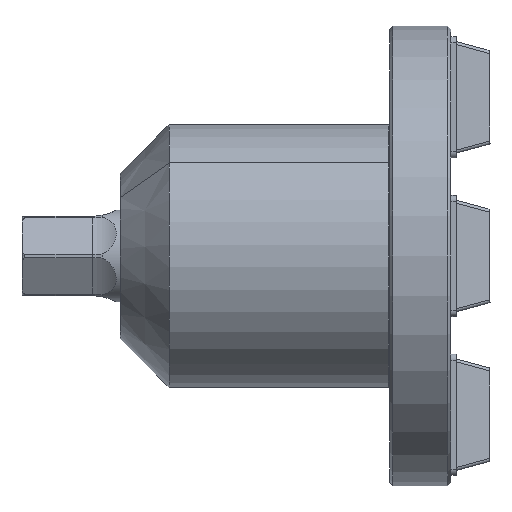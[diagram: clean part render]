
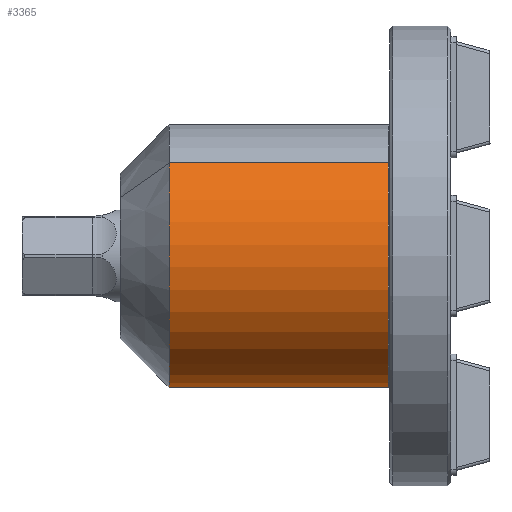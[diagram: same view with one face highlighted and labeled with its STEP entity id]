
A CAD part, front view. The second image highlights one B-rep face of the part: STEP entity #3365.
In plain terms, the highlighted cylindrical face has radius 21.5 mm (diameter 43 mm), a partial arc.
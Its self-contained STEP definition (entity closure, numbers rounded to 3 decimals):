
#511 = CARTESIAN_POINT ( 'NONE',  ( -169.179, -15.203, 15.203 ) ) ;
#569 = CARTESIAN_POINT ( 'NONE',  ( -229.793, 15.203, -15.203 ) ) ;
#1201 = DIRECTION ( 'NONE',  ( 0., 0.707, -0.707 ) ) ;
#1356 = AXIS2_PLACEMENT_3D ( 'NONE', #8721, #9966, #1201 ) ;
#1649 = VERTEX_POINT ( 'NONE', #13469 ) ;
#2688 = CYLINDRICAL_SURFACE ( 'NONE', #5095, 21.5 ) ;
#3365 = ADVANCED_FACE ( 'NONE', ( #15375 ), #2688, .T. ) ;
#3849 = CARTESIAN_POINT ( 'NONE',  ( -193.993, 0., 0. ) ) ;
#4505 = DIRECTION ( 'NONE',  ( 1., 0., 0. ) ) ;
#5095 = AXIS2_PLACEMENT_3D ( 'NONE', #5463, #8234, #18747 ) ;
#5344 = AXIS2_PLACEMENT_3D ( 'NONE', #3849, #5667, #11104 ) ;
#5393 = EDGE_LOOP ( 'NONE', ( #7385, #14378, #13511, #12110 ) ) ;
#5463 = CARTESIAN_POINT ( 'NONE',  ( -169.179, 0., 0. ) ) ;
#5667 = DIRECTION ( 'NONE',  ( -1., 0., 0. ) ) ;
#5947 = LINE ( 'NONE', #8720, #10953 ) ;
#6356 = VERTEX_POINT ( 'NONE', #12198 ) ;
#6580 = CIRCLE ( 'NONE', #5344, 21.5 ) ;
#7385 = ORIENTED_EDGE ( 'NONE', *, *, #18431, .T. ) ;
#8234 = DIRECTION ( 'NONE',  ( 1., 0., 0. ) ) ;
#8720 = CARTESIAN_POINT ( 'NONE',  ( -169.179, 15.203, -15.203 ) ) ;
#8721 = CARTESIAN_POINT ( 'NONE',  ( -229.793, 0., 0. ) ) ;
#9317 = EDGE_CURVE ( 'NONE', #15796, #6356, #16419, .T. ) ;
#9569 = CIRCLE ( 'NONE', #1356, 21.5 ) ;
#9966 = DIRECTION ( 'NONE',  ( 1., 0., 0. ) ) ;
#10953 = VECTOR ( 'NONE', #4505, 1000. ) ;
#11104 = DIRECTION ( 'NONE',  ( 0., -0.707, 0.707 ) ) ;
#12110 = ORIENTED_EDGE ( 'NONE', *, *, #9317, .F. ) ;
#12198 = CARTESIAN_POINT ( 'NONE',  ( -193.993, -15.203, 15.203 ) ) ;
#12267 = CARTESIAN_POINT ( 'NONE',  ( -229.793, -15.203, 15.203 ) ) ;
#13469 = CARTESIAN_POINT ( 'NONE',  ( -193.993, 15.203, -15.203 ) ) ;
#13511 = ORIENTED_EDGE ( 'NONE', *, *, #15040, .T. ) ;
#14378 = ORIENTED_EDGE ( 'NONE', *, *, #17092, .T. ) ;
#15040 = EDGE_CURVE ( 'NONE', #1649, #6356, #6580, .T. ) ;
#15375 = FACE_OUTER_BOUND ( 'NONE', #5393, .T. ) ;
#15590 = VECTOR ( 'NONE', #18264, 1000. ) ;
#15767 = VERTEX_POINT ( 'NONE', #569 ) ;
#15796 = VERTEX_POINT ( 'NONE', #12267 ) ;
#16419 = LINE ( 'NONE', #511, #15590 ) ;
#17092 = EDGE_CURVE ( 'NONE', #15767, #1649, #5947, .T. ) ;
#18264 = DIRECTION ( 'NONE',  ( 1., 0., 0. ) ) ;
#18431 = EDGE_CURVE ( 'NONE', #15796, #15767, #9569, .T. ) ;
#18747 = DIRECTION ( 'NONE',  ( 0., -0.707, 0.707 ) ) ;
